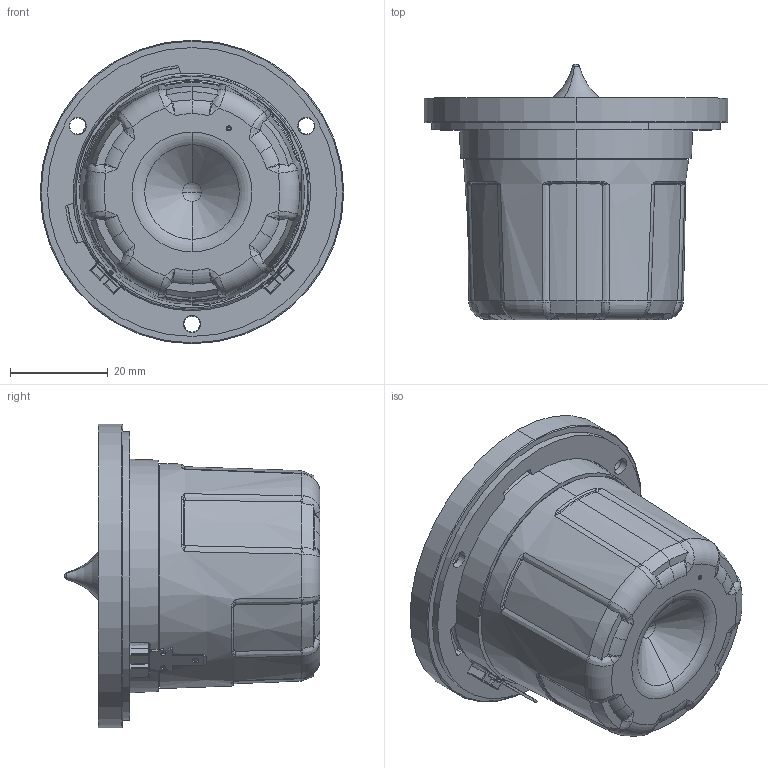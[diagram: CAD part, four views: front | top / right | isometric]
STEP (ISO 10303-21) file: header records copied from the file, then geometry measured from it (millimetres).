
FILE_DESCRIPTION (( 'STEP AP214' ), '1' );
FILE_NAME ('R3004-602200.STEP', '2023-11-03T09:13:12', ( '' ), ( '' ), 'SwSTEP 2.0', 'SolidWorks 2022', '' );
FILE_SCHEMA (( 'AUTOMOTIVE_DESIGN' ));
Length unit declared in the file: millimetre
Products named in the file (1): R3004-602200
Bounding box: 62 x 52.26 x 62 mm (x, y, z)
Volume: 75648.8 mm3; surface area: 15746.7 mm2
Topology: 3 solids, 4 shells, 598 faces, 1629 edges, 981 vertices
Faces by surface type: plane 178, cylinder 145, bspline 123, torus 85, cone 51, sphere 16
Entity records: 28316 total; most frequent: CARTESIAN_POINT 8195, ORIENTED_EDGE 3154, DIRECTION 2701, EDGE_CURVE 1577, AXIS2_PLACEMENT_3D 1081, VERTEX_POINT 981, EDGE_LOOP 618, CIRCLE 605
